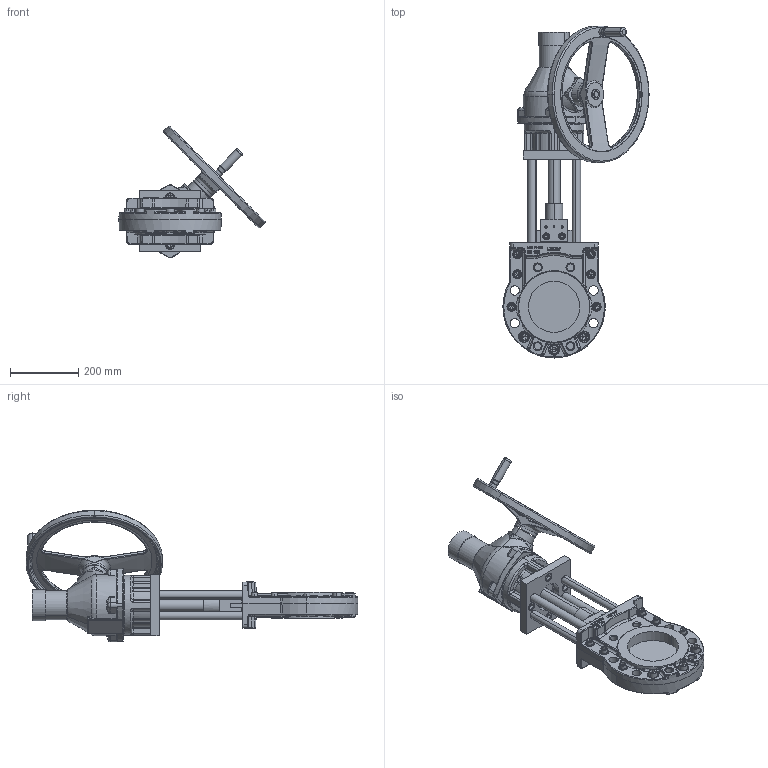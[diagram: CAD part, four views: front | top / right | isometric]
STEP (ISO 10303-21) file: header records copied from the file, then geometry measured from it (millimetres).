
FILE_DESCRIPTION (( 'STEP AP214' ), '1' );
FILE_NAME ('MHA DN 150 GK14.2.STEP', '2015-04-28T08:47:02', ( 'admin' ), ( 'Hewlett-Packard Company' ), 'SwSTEP 2.0', 'SolidWorks 2013', '' );
FILE_SCHEMA (( 'AUTOMOTIVE_DESIGN' ));
Length unit declared in the file: millimetre
Products named in the file (1): MHA DN 150 GK14.2
Bounding box: 428.34 x 972.5 x 385.23 mm (x, y, z)
Volume: 12078232.4 mm3; surface area: 1191710.4 mm2
Topology: 36 solids, 49 shells, 2397 faces, 5736 edges, 3385 vertices
Faces by surface type: plane 752, cylinder 625, bspline 405, cone 328, torus 275, sphere 12
Entity records: 113466 total; most frequent: CARTESIAN_POINT 33654, ORIENTED_EDGE 11096, DIRECTION 11090, EDGE_CURVE 5548, AXIS2_PLACEMENT_3D 4415, VERTEX_POINT 3385, EDGE_LOOP 2603, UNCERTAINTY_MEASURE_WITH_UNIT 2433
